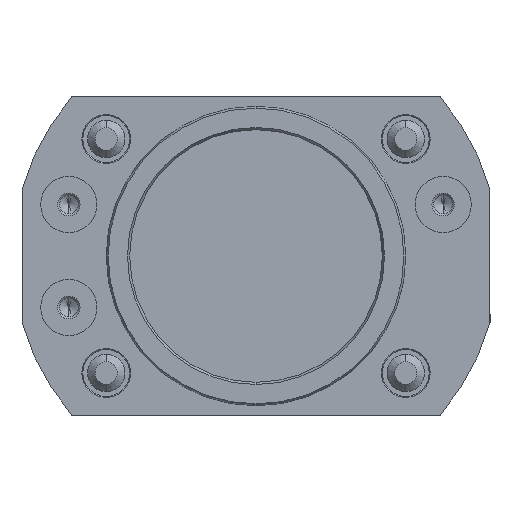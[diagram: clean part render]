
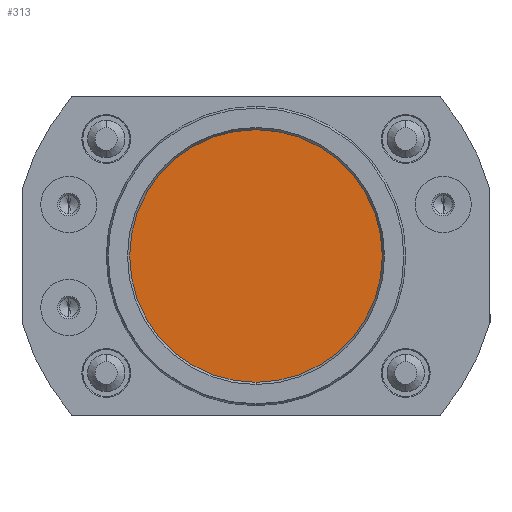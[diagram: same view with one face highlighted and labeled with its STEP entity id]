
A CAD part, front view. The second image highlights one B-rep face of the part: STEP entity #313.
In plain terms, the highlighted planar face has unit normal (0, -1, 0).
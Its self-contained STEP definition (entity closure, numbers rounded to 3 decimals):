
#140 = EDGE_CURVE ( 'NONE', #305, #309, #2687, .T. ) ;
#256 = EDGE_CURVE ( 'NONE', #309, #305, #2884, .T. ) ;
#305 = VERTEX_POINT ( 'NONE', #3037 ) ;
#309 = VERTEX_POINT ( 'NONE', #3072 ) ;
#313 = ADVANCED_FACE ( 'NONE', ( #3021 ), #3071, .T. ) ;
#354 = ORIENTED_EDGE ( 'NONE', *, *, #140, .F. ) ;
#397 = EDGE_LOOP ( 'NONE', ( #401, #354 ) ) ;
#401 = ORIENTED_EDGE ( 'NONE', *, *, #256, .F. ) ;
#2678 = DIRECTION ( 'NONE',  ( 0., 0., 1. ) ) ;
#2679 = DIRECTION ( 'NONE',  ( 0., 1., 0. ) ) ;
#2680 = CARTESIAN_POINT ( 'NONE',  ( 0., 3.1, 0. ) ) ;
#2681 = AXIS2_PLACEMENT_3D ( 'NONE', #2680, #2679, #2678 ) ;
#2687 = CIRCLE ( 'NONE', #2681, 13.5 ) ;
#2884 = CIRCLE ( 'NONE', #2894, 13.5 ) ;
#2894 = AXIS2_PLACEMENT_3D ( 'NONE', #2952, #2951, #2950 ) ;
#2950 = DIRECTION ( 'NONE',  ( 0., 0., 1. ) ) ;
#2951 = DIRECTION ( 'NONE',  ( 0., 1., 0. ) ) ;
#2952 = CARTESIAN_POINT ( 'NONE',  ( 0., 3.1, 0. ) ) ;
#3021 = FACE_OUTER_BOUND ( 'NONE', #397, .T. ) ;
#3027 = AXIS2_PLACEMENT_3D ( 'NONE', #3065, #3064, #3063 ) ;
#3037 = CARTESIAN_POINT ( 'NONE',  ( 0., 3.1, -13.5 ) ) ;
#3063 = DIRECTION ( 'NONE',  ( 0., 0., -1. ) ) ;
#3064 = DIRECTION ( 'NONE',  ( 0., -1., 0. ) ) ;
#3065 = CARTESIAN_POINT ( 'NONE',  ( 0., 3.1, 0. ) ) ;
#3071 = PLANE ( 'NONE',  #3027 ) ;
#3072 = CARTESIAN_POINT ( 'NONE',  ( 0., 3.1, 13.5 ) ) ;
